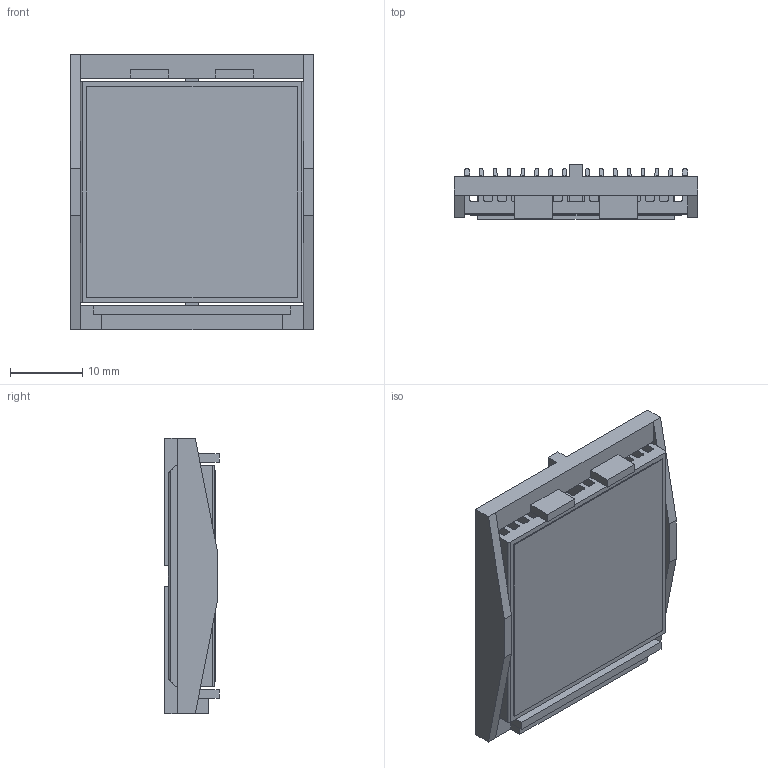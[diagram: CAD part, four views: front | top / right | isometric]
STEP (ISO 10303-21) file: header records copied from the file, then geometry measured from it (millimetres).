
FILE_DESCRIPTION (( 'STEP AP214' ), '1' );
FILE_NAME ('INL31001-6-1.7O.STEP', '2023-02-22T19:36:04', ( '' ), ( '' ), 'SwSTEP 2.0', 'SolidWorks 2020', '' );
FILE_SCHEMA (( 'AUTOMOTIVE_DESIGN' ));
Length unit declared in the file: millimetre
Products named in the file (1): INL31001-6-1.7O
Bounding box: 33.6 x 7.5 x 38.1 mm (x, y, z)
Volume: 4445.4 mm3; surface area: 10187.7 mm2
Topology: 3 solids, 3 shells, 184 faces, 536 edges, 356 vertices
Faces by surface type: plane 136, cylinder 48
Entity records: 8092 total; most frequent: CARTESIAN_POINT 1173, ORIENTED_EDGE 1072, DIRECTION 938, EDGE_CURVE 536, LINE 440, VECTOR 440, VERTEX_POINT 356, AXIS2_PLACEMENT_3D 249
